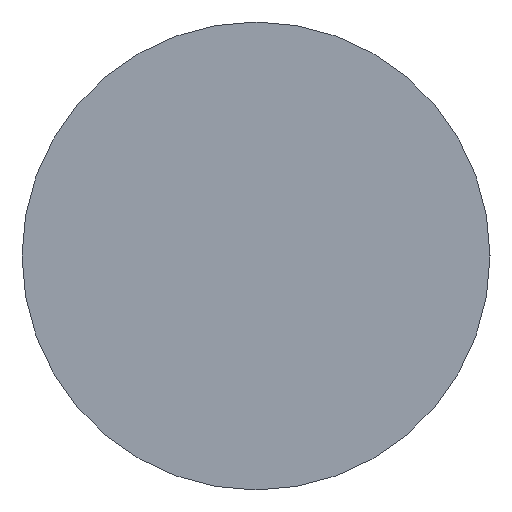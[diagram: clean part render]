
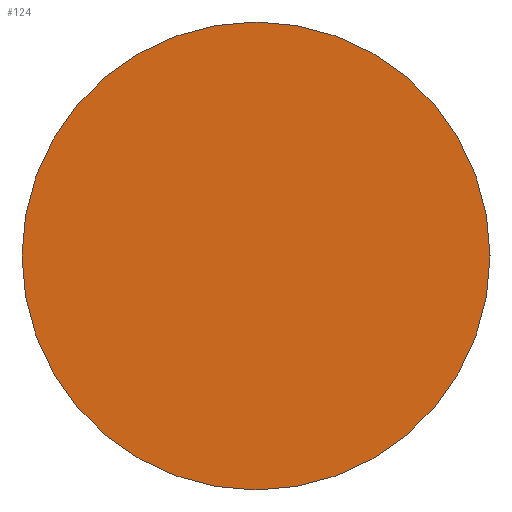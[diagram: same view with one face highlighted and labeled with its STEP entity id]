
A CAD part, left-side view. The second image highlights one B-rep face of the part: STEP entity #124.
In plain terms, the highlighted planar face has unit normal (-1, 0, 0).
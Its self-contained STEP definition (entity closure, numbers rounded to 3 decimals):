
#4 = CIRCLE ( 'NONE', #56, 7. ) ;
#12 = ORIENTED_EDGE ( 'NONE', *, *, #270, .F. ) ;
#14 = EDGE_CURVE ( 'NONE', #192, #55, #4, .T. ) ;
#29 = CARTESIAN_POINT ( 'NONE',  ( 0., 0., 0. ) ) ;
#42 = DIRECTION ( 'NONE',  ( 0., 1., 0. ) ) ;
#55 = VERTEX_POINT ( 'NONE', #94 ) ;
#56 = AXIS2_PLACEMENT_3D ( 'NONE', #195, #182, #223 ) ;
#67 = DIRECTION ( 'NONE',  ( 1., 0., 0. ) ) ;
#76 = CARTESIAN_POINT ( 'NONE',  ( 0., 0., 0. ) ) ;
#89 = CARTESIAN_POINT ( 'NONE',  ( 0., -7., 0. ) ) ;
#94 = CARTESIAN_POINT ( 'NONE',  ( 0., 7., 0. ) ) ;
#105 = PLANE ( 'NONE',  #110 ) ;
#110 = AXIS2_PLACEMENT_3D ( 'NONE', #76, #177, #267 ) ;
#113 = EDGE_LOOP ( 'NONE', ( #12, #229 ) ) ;
#124 = ADVANCED_FACE ( 'NONE', ( #180 ), #105, .T. ) ;
#150 = AXIS2_PLACEMENT_3D ( 'NONE', #29, #67, #42 ) ;
#170 = CIRCLE ( 'NONE', #150, 7. ) ;
#177 = DIRECTION ( 'NONE',  ( -1., 0., 0. ) ) ;
#180 = FACE_OUTER_BOUND ( 'NONE', #113, .T. ) ;
#182 = DIRECTION ( 'NONE',  ( 1., 0., 0. ) ) ;
#192 = VERTEX_POINT ( 'NONE', #89 ) ;
#195 = CARTESIAN_POINT ( 'NONE',  ( 0., 0., 0. ) ) ;
#223 = DIRECTION ( 'NONE',  ( 0., 1., 0. ) ) ;
#229 = ORIENTED_EDGE ( 'NONE', *, *, #14, .F. ) ;
#267 = DIRECTION ( 'NONE',  ( 0., -1., 0. ) ) ;
#270 = EDGE_CURVE ( 'NONE', #55, #192, #170, .T. ) ;
